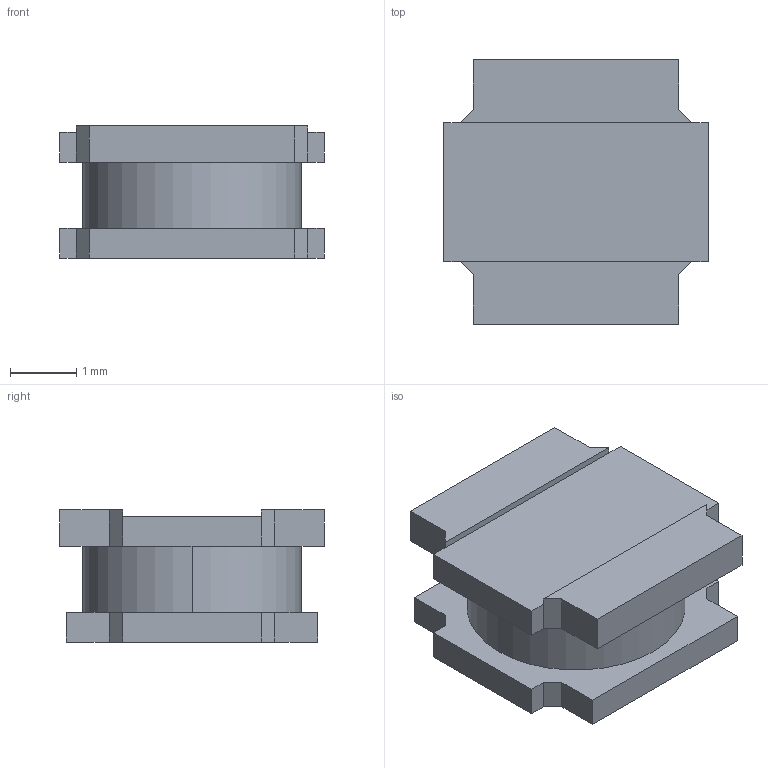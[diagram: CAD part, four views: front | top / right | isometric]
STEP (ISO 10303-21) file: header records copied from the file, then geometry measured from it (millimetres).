
FILE_DESCRIPTION (( 'STEP AP203' ), '1' );
FILE_NAME ('PA4332.STEP', '2021-07-02T07:17:06', ( '' ), ( '' ), 'SwSTEP 2.0', 'SolidWorks 2015', '' );
FILE_SCHEMA (( 'CONFIG_CONTROL_DESIGN' ));
Length unit declared in the file: millimetre
Products named in the file (1): PA4332
Bounding box: 4 x 4 x 2 mm (x, y, z)
Volume: 21.8 mm3; surface area: 65 mm2
Topology: 1 solids, 1 shells, 42 faces, 110 edges, 72 vertices
Faces by surface type: plane 40, cylinder 2
Entity records: 1343 total; most frequent: CARTESIAN_POINT 225, ORIENTED_EDGE 220, DIRECTION 200, EDGE_CURVE 110, LINE 106, VECTOR 106, VERTEX_POINT 72, AXIS2_PLACEMENT_3D 47
